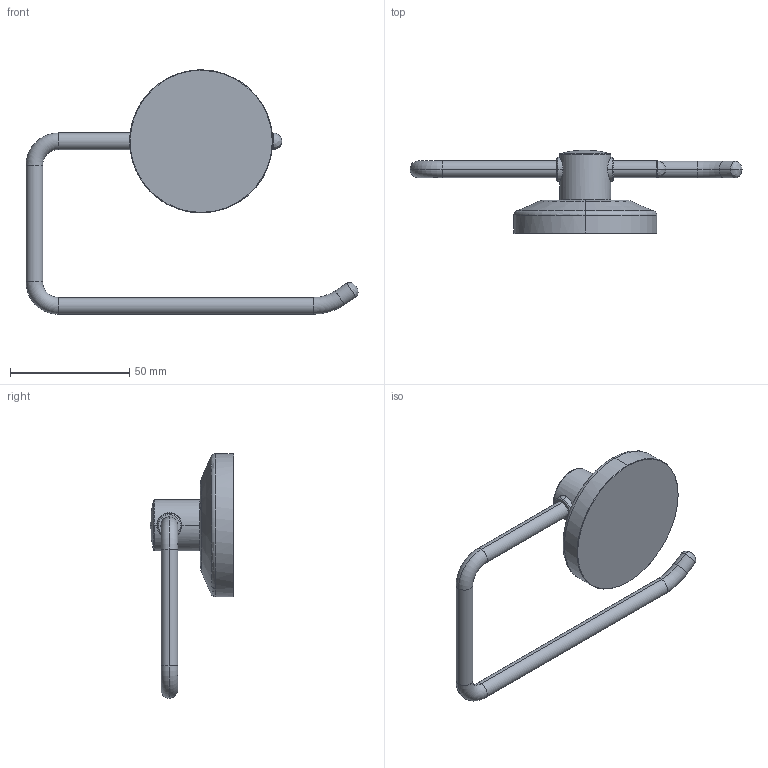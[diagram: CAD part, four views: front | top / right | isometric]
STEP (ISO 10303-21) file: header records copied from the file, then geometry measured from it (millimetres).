
FILE_DESCRIPTION(('THIS FILE CONTAINS SOME STEP INSTANCES'),'1');
FILE_NAME('sta_056.stp','2015-12-07T14:28:04',('UNDEFINED'),('UNDEFINED'),'T-FLEX CAD STEP converter','T-FLEX CAD','');
FILE_SCHEMA(('CONFIG_CONTROL_DESIGN'));
Length unit declared in the file: metre
Products named in the file (2): 3D 鐨飹懤艜_7; 3D 鐨飹懤艜_12
Bounding box: 139.26 x 35 x 102.5 mm (x, y, z)
Volume: 52948.7 mm3; surface area: 15942.3 mm2
Topology: 2 solids, 2 shells, 59 faces, 138 edges, 81 vertices
Faces by surface type: cylinder 18, cone 12, torus 12, bspline 9, plane 6, sphere 2
Entity records: 4881 total; most frequent: CARTESIAN_POINT 3775, ORIENTED_EDGE 268, DIRECTION 167, EDGE_CURVE 134, VERTEX_POINT 81, AXIS2_PLACEMENT_3D 69, EDGE_LOOP 63, ADVANCED_FACE 59
